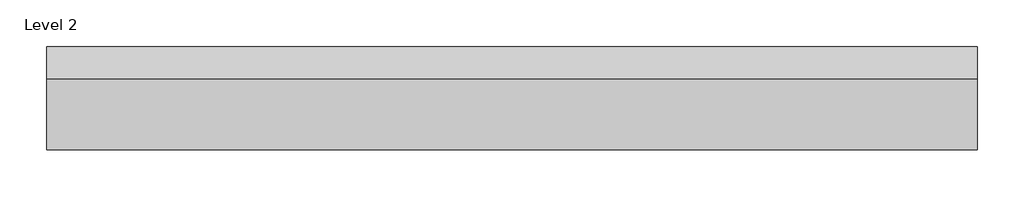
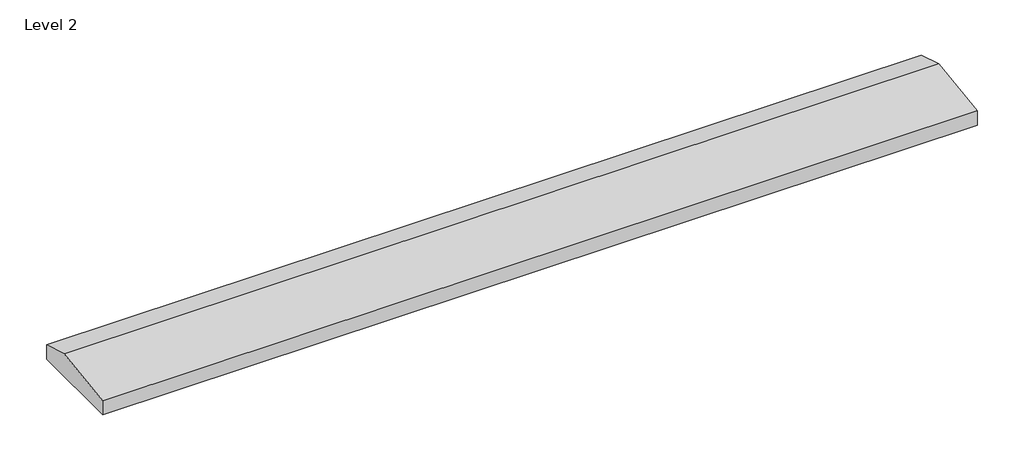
# One storey: 1 proxy.
"""IFC4 building model written with IfcOpenShell, lengths in millimetres."""

import ifcopenshell
import ifcopenshell.guid

model = None  # the IFC model being written
_history = None  # IfcOwnerHistory: only IFC2X3 demands one
_inside = {}  # id of a spatial element -> (the spatial element, [elements in it])
_under = {}  # id of a project, library or spatial element -> (it, [spatial elements below it])
_declared = {}  # id of a project -> (the project, [libraries it declares])
_typed = {}  # id of a type object -> (the type object, [elements of that type])
_made_of = {}  # id of a material, layer set ... -> (it, [elements and type objects made of it])


def new_model(schema):
    """Start an empty IFC model of exactly this schema.

    Asked for "IFC4X3", IfcOpenShell would pick the latest addendum, in which some entities
    have other attributes; the version numbers below select the first issue.
    IFC2X3 requires an IfcOwnerHistory on every rooted entity: one is made here for all.
    """
    global model, _history
    if schema == "IFC4X3":
        model = ifcopenshell.file(schema_version=(4, 3, 0, 0))
    else:
        model = ifcopenshell.file(schema=schema)
    _inside.clear()
    _under.clear()
    _declared.clear()
    _typed.clear()
    _made_of.clear()
    _history = None
    if model.schema == "IFC2X3":
        org = make("IfcOrganization", Name="unknown")
        user = make(
            "IfcPersonAndOrganization",
            ThePerson=make("IfcPerson", FamilyName="unknown"),
            TheOrganization=org,
        )
        app = make(
            "IfcApplication",
            ApplicationDeveloper=org,
            Version="unknown",
            ApplicationFullName="unknown",
            ApplicationIdentifier="unknown",
        )
        _history = make(
            "IfcOwnerHistory",
            OwningUser=user,
            OwningApplication=app,
            ChangeAction="ADDED",
            CreationDate=0,
        )
    return model


def make(cls, **values):
    """One entity of the class cls with the attributes given. An attribute that is None is left unset."""
    return model.create_entity(
        cls, **{name: value for name, value in values.items() if value is not None}
    )


def rooted(cls, **values):
    """An entity with a GlobalId (a new one), such as an element, a storey or a relation."""
    return make(cls, GlobalId=ifcopenshell.guid.new(), OwnerHistory=_history, **values)


def si_unit(unit_type, name, prefix=None):
    """IfcSIUnit, for example si_unit("LENGTHUNIT", "METRE", prefix="MILLI")."""
    return make("IfcSIUnit", UnitType=unit_type, Prefix=prefix, Name=name)


def assignment(units):
    """IfcUnitAssignment: the units of a project."""
    return None if units is None else make("IfcUnitAssignment", Units=units)


def point(xyz):
    """IfcCartesianPoint."""
    return None if xyz is None else make("IfcCartesianPoint", Coordinates=xyz)


def direction(xyz):
    """IfcDirection."""
    return None if xyz is None else make("IfcDirection", DirectionRatios=xyz)


def frame(location, z_axis=None, x_axis=None):
    """IfcAxis2Placement3D, a coordinate frame: its origin and axes. An axis left out is left unset."""
    return make(
        "IfcAxis2Placement3D",
        Location=point(location),
        Axis=direction(z_axis),
        RefDirection=direction(x_axis),
    )


def origin():
    """The frame at (0, 0, 0) with its axes left unset."""
    return frame((0.0, 0.0, 0.0))


def place(relative_to, where):
    """IfcLocalPlacement: puts the frame where relative to a parent placement (None: the world)."""
    return make(
        "IfcLocalPlacement", PlacementRelTo=relative_to, RelativePlacement=where
    )


def context(
    kind, dimensions, precision=None, world=None, true_north=None, identifier=None
):
    """IfcGeometricRepresentationContext, for example the 3D "Model" context."""
    return make(
        "IfcGeometricRepresentationContext",
        ContextIdentifier=identifier,
        ContextType=kind,
        CoordinateSpaceDimension=dimensions,
        Precision=precision,
        WorldCoordinateSystem=world,
        TrueNorth=true_north,
    )


def project(units=None, contexts=None):
    """IfcProject with its units and contexts."""
    return rooted(
        "IfcProject",
        Name="project",
        RepresentationContexts=contexts,
        UnitsInContext=assignment(units),
    )


def spatial(cls, under=None, at=None, **own):
    """A site, building, storey or space (cls), placed at a placement, below another one or the project."""
    s = rooted(cls, ObjectPlacement=at, **own)
    if under is not None:
        _under.setdefault(under.id(), (under, []))[1].append(s)
    return s


def faces_of(points, faces, orient=None, outer=None):
    """IfcFace entities. A face is a list of loops; a loop is a list of indices into points, from 0.

    orient and outer hold one flag for each loop. By default every Orientation is true, the
    first loop of a face is its IfcFaceOuterBound and the others are IfcFaceBound.
    """
    made = []
    for i, loops in enumerate(faces):
        bounds = []
        for j, loop in enumerate(loops):
            is_outer = j == 0 if outer is None else outer[i][j]
            bounds.append(
                make(
                    "IfcFaceOuterBound" if is_outer else "IfcFaceBound",
                    Bound=make("IfcPolyLoop", Polygon=[points[k] for k in loop]),
                    Orientation=True if orient is None else orient[i][j],
                )
            )
        made.append(make("IfcFace", Bounds=bounds))
    return made


def faceted_brep(points, faces, orient=None, outer=None, voids=None):
    """IfcFacetedBrep: a solid bounded by flat faces; with voids (closed shells), ...WithVoids."""
    shared = [point(p) for p in points]
    hull = make("IfcClosedShell", CfsFaces=faces_of(shared, faces, orient, outer))
    if voids is None:
        return make("IfcFacetedBrep", Outer=hull)
    return make(
        "IfcFacetedBrepWithVoids",
        Outer=hull,
        Voids=[
            make(cls, CfsFaces=faces_of(shared, fs, o, b)) for cls, fs, o, b in voids
        ],
    )


def shape(context_of_items, identifier, shape_type, items):
    """IfcShapeRepresentation: the items that make up one representation, for example the "Body"."""
    return make(
        "IfcShapeRepresentation",
        ContextOfItems=context_of_items,
        RepresentationIdentifier=identifier,
        RepresentationType=shape_type,
        Items=items,
    )


def made_of(thing, what):
    """Note that an element or type object is made of a material, layer set ...; save() writes the relation."""
    if what is not None:
        _made_of.setdefault(what.id(), (what, []))[1].append(thing)
    return thing


def element(
    cls,
    number,
    at=None,
    inside=None,
    cuts=None,
    type_object=None,
    material=None,
    context=None,
    identifier="Body",
    shape_type=None,
    held_by="IfcProductDefinitionShape",
    body=None,
    shapes=None,
    **own,
):
    """One element of the class cls, such as IfcWall. Its Tag is "e" and its number.

    at: its placement. inside: the storey or other place that contains it. cuts: it is an
    opening in that element (IfcRelVoidsElement). A single representation is given by context,
    identifier, shape_type and body (its items); several are given by shapes. held_by: the class
    of the entity that holds the representations. save() writes the other relations.
    """
    e = rooted(cls, Tag="e%d" % number, ObjectPlacement=at, **own)
    if body is not None:
        shapes = [shape(context, identifier, shape_type, body)]
    if shapes is not None:
        e.Representation = make(held_by, Representations=shapes)
    if inside is not None:
        _inside.setdefault(inside.id(), (inside, []))[1].append(e)
    if cuts is not None:
        rooted(
            "IfcRelVoidsElement", RelatingBuildingElement=cuts, RelatedOpeningElement=e
        )
    if type_object is not None:
        _typed.setdefault(type_object.id(), (type_object, []))[1].append(e)
    return made_of(e, material)


def aggregate(whole, parts):
    """IfcRelAggregates: a whole, such as a stair, and the parts it consists of."""
    return rooted("IfcRelAggregates", RelatingObject=whole, RelatedObjects=parts)


def save(model, path):
    """Write the relations noted so far, then the file.

    IfcRelAggregates (storeys below a building ...), IfcRelContainedInSpatialStructure (elements
    in a storey), IfcRelDefinesByType, IfcRelAssociatesMaterial and IfcRelDeclares: one each for
    every whole, place, type object, material and project.
    """
    for whole, parts in _under.values():
        aggregate(whole, parts)
    for where, things in _inside.values():
        rooted(
            "IfcRelContainedInSpatialStructure",
            RelatedElements=things,
            RelatingStructure=where,
        )
    for kind, things in _typed.values():
        rooted("IfcRelDefinesByType", RelatedObjects=things, RelatingType=kind)
    for what, things in _made_of.values():
        rooted("IfcRelAssociatesMaterial", RelatedObjects=things, RelatingMaterial=what)
    for by, libraries in _declared.values():
        rooted("IfcRelDeclares", RelatingContext=by, RelatedDefinitions=libraries)
    model.write(path)


model = new_model("IFC4")

# Units and contexts
model_context = context("Model", 3, world=origin())
ifc_project = project(units=[si_unit("LENGTHUNIT", "METRE", prefix="MILLI")], contexts=[model_context])

# Site, building, storey
site = spatial("IfcSite", under=ifc_project)
building = spatial("IfcBuilding", under=site)
storey = spatial("IfcBuildingStorey", under=building, Name="Level 2", Elevation=3657.6)

# Proxy
placement = place(None, origin())
element("IfcBuildingElementProxy", 1, Name="Wall Sweeps", at=placement, inside=storey, context=model_context, shape_type="Brep", body=[
    faceted_brep([(19074.129287, -5740.7941339, 3721.1), (19074.129287, -5740.7941339, 3657.6), (19074.129287, -5715.3941339, 3657.6), (19074.129287, -5359.7941339, 3657.6), (19074.129287, -5334.3941339, 3657.6), (19074.129287, -5334.3941339, 3721.1), (19074.129287, -5461.3941339, 3759.2), (15416.529287, -5740.7941339, 3721.1), (15416.529287, -5461.3941339, 3759.2), (15416.529287, -5334.3941339, 3721.1), (15416.529287, -5334.3941339, 3657.6), (15416.529287, -5359.7941339, 3657.6), (15416.529287, -5715.3941339, 3657.6), (15416.529287, -5740.7941339, 3657.6)], [[[0, 1, 2, 3, 4, 5, 6]], [[7, 8, 9, 10, 11, 12, 13]], [[1, 0, 7, 13]], [[4, 3, 2, 1, 13, 12, 11, 10]], [[5, 4, 10, 9]], [[6, 5, 9, 8]], [[0, 6, 8, 7]]]),
])

save(model, "model.ifc")
